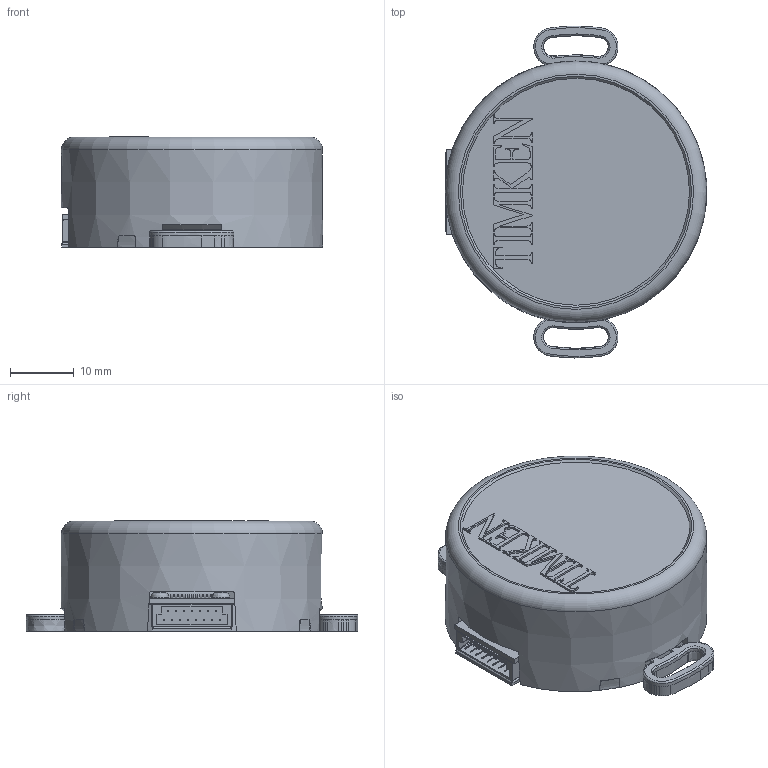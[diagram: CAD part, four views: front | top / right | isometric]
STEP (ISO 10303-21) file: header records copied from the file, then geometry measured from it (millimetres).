
FILE_DESCRIPTION(/* description */ (''),/* implementation_level */ '2;1');
FILE_NAME(/* name */ 'ASSY C-74949',/* time_stamp */ '2010-12-03T09:08:35-05:00',/* author */ (''),/* organization */ (''),/* preprocessor_version */ 'ST-DEVELOPER v9',/* originating_system */ 'UGS - NX 3.0',/* authorisation */ '');
FILE_SCHEMA (('CONFIG_CONTROL_DESIGN'));
Length unit declared in the file: inch
Products named in the file (8): FI-W15P-HFE_A; B-134060_A1; E-49738_A; 008542_A; 008458_A; BASE-NO-STAKES_A; 008441_A; C-74949_A
Assembly tree (20 placements, depth 3):
  C-74949_A
    008441_A
      B-134060_A1
      FI-W15P-HFE_A
    BASE-NO-STAKES_A  x2
    008458_A  x12
    008542_A  x2
    E-49738_A
Bounding box: 41.01 x 52 x 17.32 mm (x, y, z)
Volume: 9166.7 mm3; surface area: 17163.6 mm2
Topology: 28 solids, 28 shells, 1450 faces, 3941 edges, 2581 vertices
Faces by surface type: plane 816, cylinder 330, extrusion 147, cone 71, torus 32, sphere 30, bspline 24
Full cylindrical faces by diameter (mm): 1 x1, 1.524 x2, 1.575 x6, 2.794 x12, 14.05 x1, 14.097 x2
Entity records: 40833 total; most frequent: CARTESIAN_POINT 12265, ORIENTED_EDGE 5886, DIRECTION 5224, EDGE_CURVE 2943, VECTOR 2050, VERTEX_POINT 1954, LINE 1932, AXIS2_PLACEMENT_3D 1587
